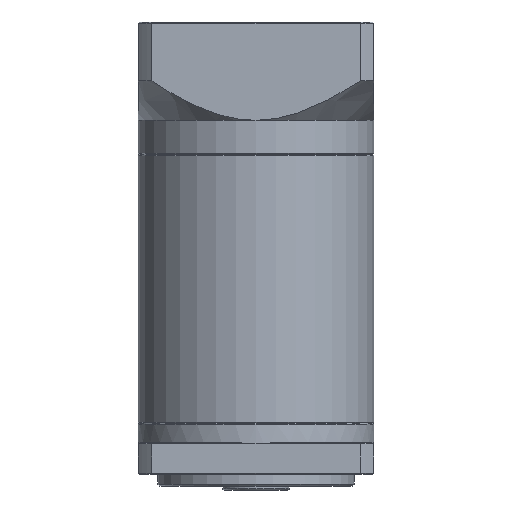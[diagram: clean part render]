
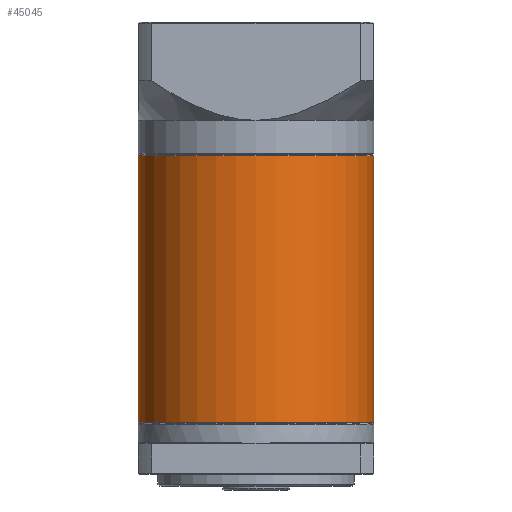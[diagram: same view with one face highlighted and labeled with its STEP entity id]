
A CAD part, front view. The second image highlights one B-rep face of the part: STEP entity #45045.
In plain terms, the highlighted cylindrical face has radius 30 mm (diameter 60 mm), a partial arc.
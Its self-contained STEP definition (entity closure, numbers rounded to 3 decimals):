
#1597 = ORIENTED_EDGE ( 'NONE', *, *, #40082, .T. ) ;
#4793 = ORIENTED_EDGE ( 'NONE', *, *, #64069, .T. ) ;
#5839 = LINE ( 'NONE', #14783, #55163 ) ;
#11671 = EDGE_CURVE ( 'NONE', #34632, #96005, #45906, .T. ) ;
#12816 = CYLINDRICAL_SURFACE ( 'NONE', #33516, 30. ) ;
#14783 = CARTESIAN_POINT ( 'NONE',  ( -7.326, 30.565, -33.74 ) ) ;
#16890 = EDGE_CURVE ( 'NONE', #49641, #96005, #5839, .T. ) ;
#17401 = DIRECTION ( 'NONE',  ( 0., 0., -1. ) ) ;
#22287 = DIRECTION ( 'NONE',  ( 1., 0., 0. ) ) ;
#23041 = EDGE_LOOP ( 'NONE', ( #40188, #4793, #1597, #53031 ) ) ;
#26408 = CARTESIAN_POINT ( 'NONE',  ( -37.326, 30.565, -33.74 ) ) ;
#29484 = CARTESIAN_POINT ( 'NONE',  ( -37.326, 30.565, -101.79 ) ) ;
#31667 = CARTESIAN_POINT ( 'NONE',  ( -67.326, 30.565, -33.99 ) ) ;
#33516 = AXIS2_PLACEMENT_3D ( 'NONE', #26408, #41147, #79805 ) ;
#33973 = VERTEX_POINT ( 'NONE', #31667 ) ;
#34414 = CARTESIAN_POINT ( 'NONE',  ( -67.326, 30.565, -101.79 ) ) ;
#34632 = VERTEX_POINT ( 'NONE', #34414 ) ;
#36843 = CARTESIAN_POINT ( 'NONE',  ( -37.326, 30.565, -33.99 ) ) ;
#37368 = DIRECTION ( 'NONE',  ( 0., 0., -1. ) ) ;
#40082 = EDGE_CURVE ( 'NONE', #33973, #34632, #57769, .T. ) ;
#40188 = ORIENTED_EDGE ( 'NONE', *, *, #16890, .F. ) ;
#41147 = DIRECTION ( 'NONE',  ( 0., 0., -1. ) ) ;
#44072 = DIRECTION ( 'NONE',  ( 1., 0., 0. ) ) ;
#45045 = ADVANCED_FACE ( 'NONE', ( #45685 ), #12816, .T. ) ;
#45685 = FACE_OUTER_BOUND ( 'NONE', #23041, .T. ) ;
#45906 = CIRCLE ( 'NONE', #88490, 30. ) ;
#49641 = VERTEX_POINT ( 'NONE', #79918 ) ;
#53031 = ORIENTED_EDGE ( 'NONE', *, *, #11671, .T. ) ;
#55163 = VECTOR ( 'NONE', #37368, 1000. ) ;
#55631 = AXIS2_PLACEMENT_3D ( 'NONE', #36843, #89006, #44072 ) ;
#57769 = LINE ( 'NONE', #84589, #95213 ) ;
#58185 = CIRCLE ( 'NONE', #55631, 30. ) ;
#59685 = DIRECTION ( 'NONE',  ( 0., 0., 1. ) ) ;
#64069 = EDGE_CURVE ( 'NONE', #49641, #33973, #58185, .T. ) ;
#64363 = CARTESIAN_POINT ( 'NONE',  ( -7.326, 30.565, -101.79 ) ) ;
#79805 = DIRECTION ( 'NONE',  ( -1., 0., 0. ) ) ;
#79918 = CARTESIAN_POINT ( 'NONE',  ( -7.326, 30.565, -33.99 ) ) ;
#84589 = CARTESIAN_POINT ( 'NONE',  ( -67.326, 30.565, -33.74 ) ) ;
#88490 = AXIS2_PLACEMENT_3D ( 'NONE', #29484, #59685, #22287 ) ;
#89006 = DIRECTION ( 'NONE',  ( 0., 0., -1. ) ) ;
#95213 = VECTOR ( 'NONE', #17401, 1000. ) ;
#96005 = VERTEX_POINT ( 'NONE', #64363 ) ;
